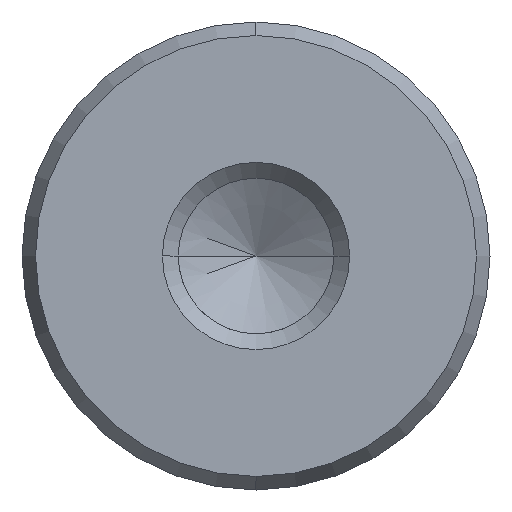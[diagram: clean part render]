
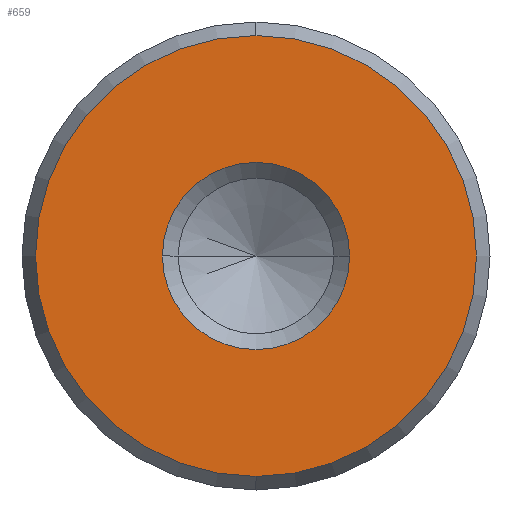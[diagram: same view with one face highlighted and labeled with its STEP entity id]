
A CAD part, left-side view. The second image highlights one B-rep face of the part: STEP entity #659.
In plain terms, the highlighted planar face has unit normal (-1, 0, 0).
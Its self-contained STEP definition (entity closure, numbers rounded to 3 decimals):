
#573=CARTESIAN_POINT('Vertex',(0.,0.,-9.423)) ;
#576=CARTESIAN_POINT('Axis2P3D Location',(0.,0.,0.)) ;
#580=CARTESIAN_POINT('Vertex',(0.,9.423,0.)) ;
#583=CARTESIAN_POINT('Axis2P3D Location',(0.,0.,0.)) ;
#587=CARTESIAN_POINT('Vertex',(0.,0.,9.423)) ;
#609=CARTESIAN_POINT('Axis2P3D Location',(0.,0.,0.)) ;
#613=CARTESIAN_POINT('Vertex',(0.,-9.423,0.)) ;
#616=CARTESIAN_POINT('Axis2P3D Location',(0.,0.,0.)) ;
#630=CARTESIAN_POINT('Axis2P3D Location',(0.,0.,0.)) ;
#641=CARTESIAN_POINT('Axis2P3D Location',(0.,0.,0.)) ;
#645=CARTESIAN_POINT('Vertex',(0.,4.,0.)) ;
#647=CARTESIAN_POINT('Vertex',(0.,-4.,0.)) ;
#650=CARTESIAN_POINT('Axis2P3D Location',(0.,0.,0.)) ;
#577=DIRECTION('Axis2P3D Direction',(1.,0.,-0.)) ;
#584=DIRECTION('Axis2P3D Direction',(1.,0.,-0.)) ;
#610=DIRECTION('Axis2P3D Direction',(1.,0.,-0.)) ;
#617=DIRECTION('Axis2P3D Direction',(1.,0.,-0.)) ;
#631=DIRECTION('Axis2P3D Direction',(1.,0.,-0.)) ;
#632=DIRECTION('Axis2P3D XDirection',(-0.,0.,-1.)) ;
#642=DIRECTION('Axis2P3D Direction',(1.,0.,-0.)) ;
#651=DIRECTION('Axis2P3D Direction',(1.,0.,-0.)) ;
#578=AXIS2_PLACEMENT_3D('Circle Axis2P3D',#576,#577,$) ;
#585=AXIS2_PLACEMENT_3D('Circle Axis2P3D',#583,#584,$) ;
#611=AXIS2_PLACEMENT_3D('Circle Axis2P3D',#609,#610,$) ;
#618=AXIS2_PLACEMENT_3D('Circle Axis2P3D',#616,#617,$) ;
#633=AXIS2_PLACEMENT_3D('Plane Axis2P3D',#630,#631,#632) ;
#643=AXIS2_PLACEMENT_3D('Circle Axis2P3D',#641,#642,$) ;
#652=AXIS2_PLACEMENT_3D('Circle Axis2P3D',#650,#651,$) ;
#636=ORIENTED_EDGE('',*,*,#582,.F.) ;
#637=ORIENTED_EDGE('',*,*,#620,.F.) ;
#638=ORIENTED_EDGE('',*,*,#615,.F.) ;
#639=ORIENTED_EDGE('',*,*,#589,.F.) ;
#656=ORIENTED_EDGE('',*,*,#649,.T.) ;
#657=ORIENTED_EDGE('',*,*,#654,.T.) ;
#658=FACE_BOUND('',#655,.T.) ;
#659=ADVANCED_FACE('720-20x125',(#640,#658),#634,.F.) ;
#579=CIRCLE('generated circle',#578,9.423) ;
#586=CIRCLE('generated circle',#585,9.423) ;
#612=CIRCLE('generated circle',#611,9.423) ;
#619=CIRCLE('generated circle',#618,9.423) ;
#644=CIRCLE('generated circle',#643,4.) ;
#653=CIRCLE('generated circle',#652,4.) ;
#582=EDGE_CURVE('',#574,#581,#579,.T.) ;
#589=EDGE_CURVE('',#581,#588,#586,.T.) ;
#615=EDGE_CURVE('',#588,#614,#612,.T.) ;
#620=EDGE_CURVE('',#614,#574,#619,.T.) ;
#649=EDGE_CURVE('',#646,#648,#644,.T.) ;
#654=EDGE_CURVE('',#648,#646,#653,.T.) ;
#635=EDGE_LOOP('',(#636,#637,#638,#639)) ;
#655=EDGE_LOOP('',(#656,#657)) ;
#640=FACE_OUTER_BOUND('',#635,.T.) ;
#634=PLANE('Plane',#633) ;
#574=VERTEX_POINT('',#573) ;
#581=VERTEX_POINT('',#580) ;
#588=VERTEX_POINT('',#587) ;
#614=VERTEX_POINT('',#613) ;
#646=VERTEX_POINT('',#645) ;
#648=VERTEX_POINT('',#647) ;
